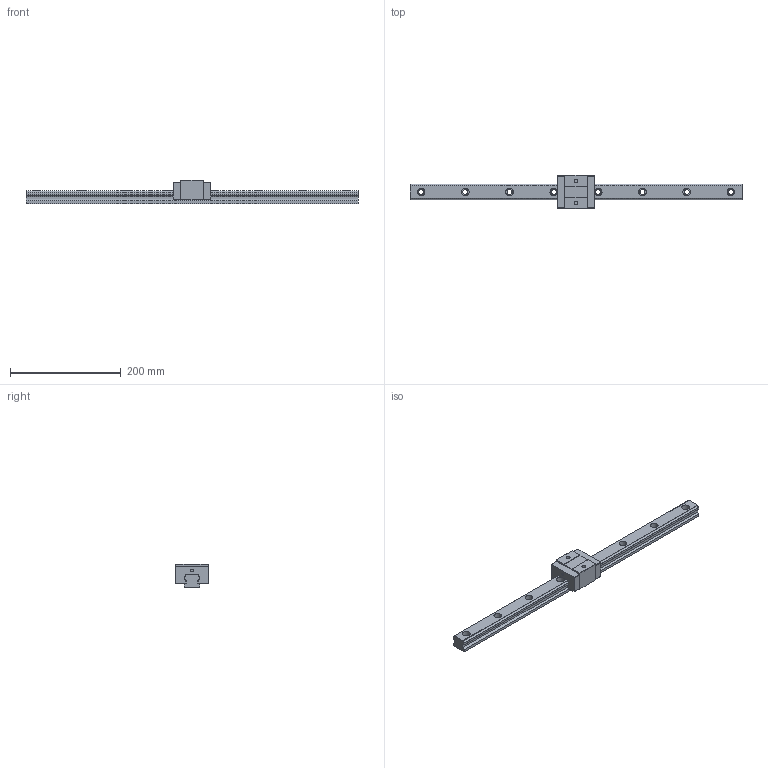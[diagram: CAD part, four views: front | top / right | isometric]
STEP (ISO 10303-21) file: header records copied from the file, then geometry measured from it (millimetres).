
FILE_DESCRIPTION(/* description */ (''),/* implementation_level */ '2;1');
FILE_NAME(/* name */ 'TRS30VS-XN.stp',/* time_stamp */ '2017-10-25T17:09:20+08:00',/* author */ (''),/* organization */ (''),/* preprocessor_version */ 'ST-DEVELOPER v11',/* originating_system */ 'SIEMENS UGS NX 6.0',/* authorisation */ '');
FILE_SCHEMA (('AUTOMOTIVE_DESIGN { 1 0 10303 214 1 1 1 1 }'));
Length unit declared in the file: millimetre
Products named in the file (1): TRS30VS-XN
Bounding box: 600 x 60 x 42 mm (x, y, z)
Volume: 432541.8 mm3; surface area: 88902.8 mm2
Topology: 2 solids, 2 shells, 116 faces, 292 edges, 192 vertices
Faces by surface type: plane 76, cylinder 40
Full cylindrical faces by diameter (mm): 5 x2, 6.75 x2, 9 x8, 14 x8
Entity records: 3838 total; most frequent: DIRECTION 578, CARTESIAN_POINT 565, ORIENTED_EDGE 528, EDGE_CURVE 264, AXIS2_PLACEMENT_3D 197, VERTEX_POINT 184, LINE 184, VECTOR 184
